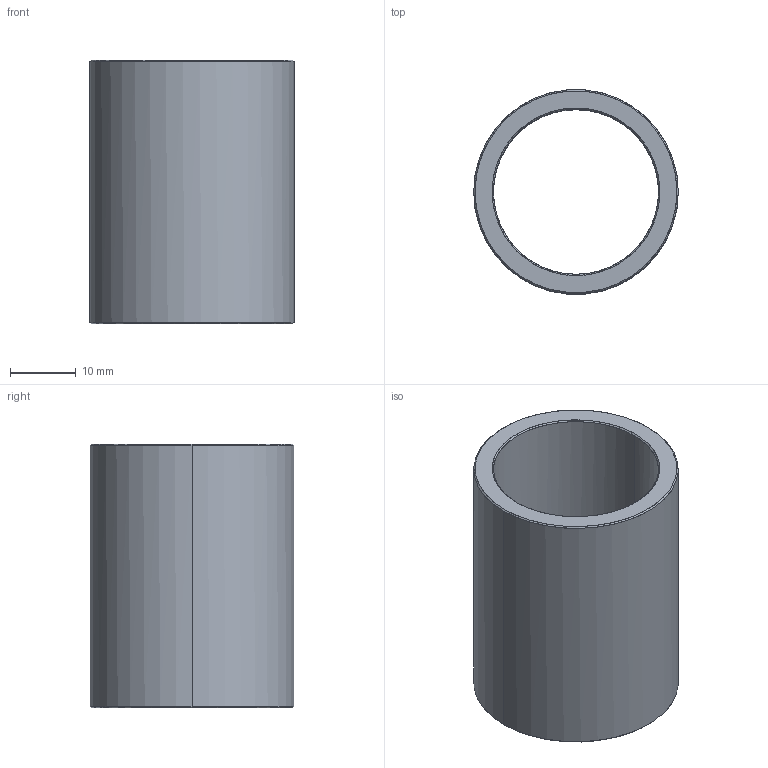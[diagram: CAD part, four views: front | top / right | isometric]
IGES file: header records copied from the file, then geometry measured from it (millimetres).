
Start section: Write IGES format                                    datakit 2008 (c)
Global section: file name: Unknown; native system: DATAKIT Converter; preprocessor: Unknown; author: Unknown; organization: Unknown; date: 950613.180003; units: millimetre
Bounding box: 31 x 30.91 x 40 mm (x, y, z)
Surface area: 7523.7 mm2 (no closed solid volume)
Topology: 0 solids, 0 shells, 14 faces, 56 edges, 56 vertices
Faces by surface type: revolution 12, bspline 2
